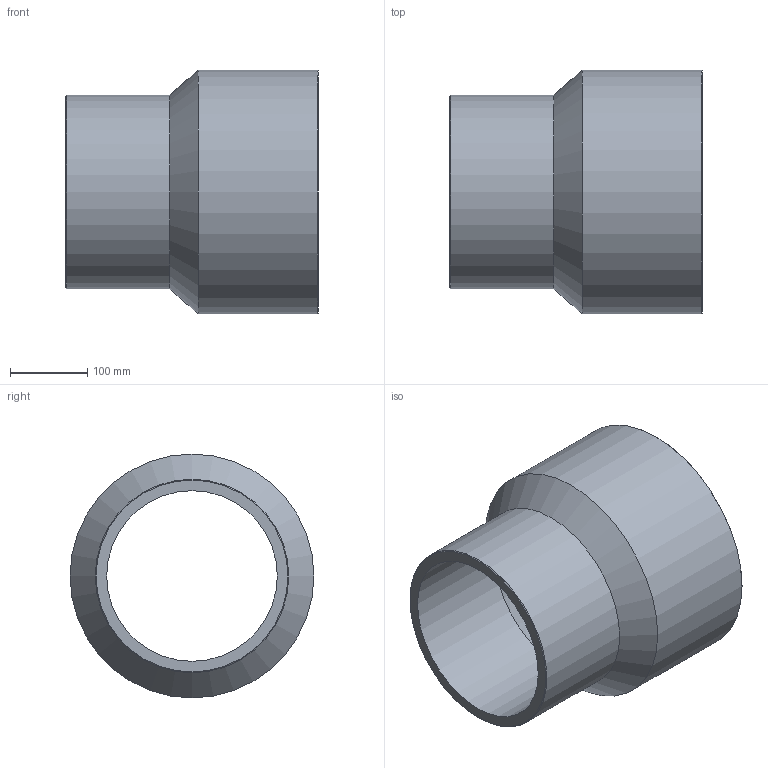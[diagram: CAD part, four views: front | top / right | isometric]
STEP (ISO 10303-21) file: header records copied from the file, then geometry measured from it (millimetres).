
FILE_DESCRIPTION(/* description */ ('Unknown'),/* implementation_level */ '2;1');
FILE_NAME(/* name */ 'RP315250B',/* time_stamp */ '2021-09-17T12:25:39+02:00',/* author */ ('Unknown'),/* organization */ ('Unknown'),/* preprocessor_version */ 'ST-DEVELOPER v16.7',/* originating_system */ 'Solid Edge',/* authorisation */ 'Unknown');
FILE_SCHEMA (('AUTOMOTIVE_DESIGN {1 0 10303 214 3 1 1}'));
Length unit declared in the file: millimetre
Products named in the file (1): RP315250B
Bounding box: 326 x 315 x 315 mm (x, y, z)
Volume: 4999808.6 mm3; surface area: 590297.2 mm2
Topology: 1 solids, 1 shells, 10 faces, 19 edges, 11 vertices
Faces by surface type: cylinder 4, cone 4, plane 2
Full cylindrical faces by diameter (mm): 220.4 x1, 250 x1, 277.6 x1, 315 x1
Entity records: 238 total; most frequent: DIRECTION 42, CARTESIAN_POINT 31, AXIS2_PLACEMENT_3D 21, ORIENTED_EDGE 20, EDGE_LOOP 20, FACE_BOUND 20, EDGE_CURVE 10, VERTEX_POINT 10
